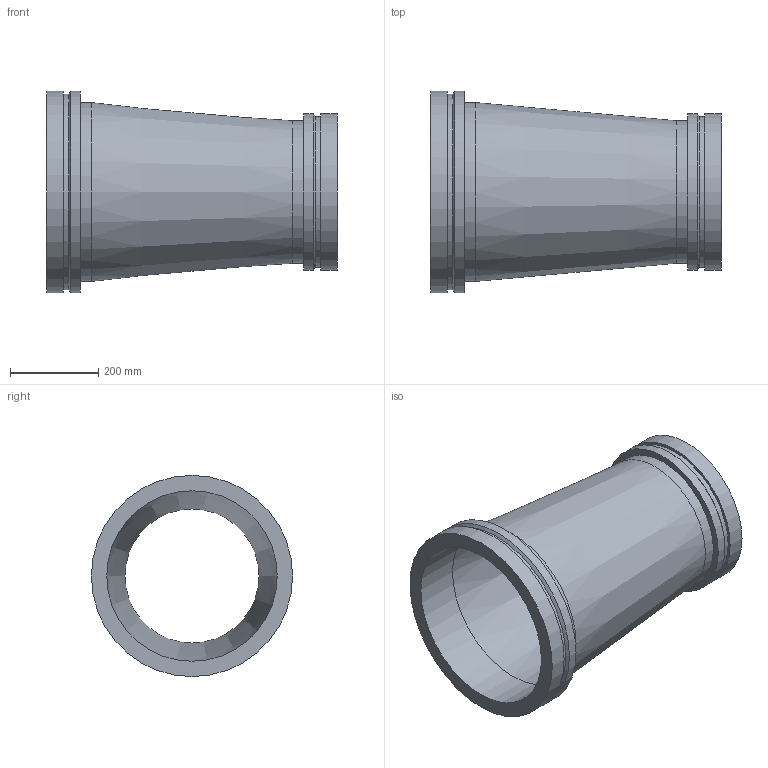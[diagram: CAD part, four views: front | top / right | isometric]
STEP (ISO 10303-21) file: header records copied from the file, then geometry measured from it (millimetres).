
FILE_DESCRIPTION(/* description */ ('VIC REDUCER CONCENTRIC No W50 VR','CAx-IF Rec.Pracs.---Representation and Presentation of Product Manufacturing Information (PMI)---4.0---2014-10-13'),/* implementation_level */ '2;1');
FILE_NAME(/* name */ 'C:\Users\kkamble\AppData\Roaming\Autodesk\ApplicationPlugins\Back Up\Victaulic_Vic-Ring_Reducer Concentric_No W50 VR (AGR)\Victaulic_Vic-Ring_Reducer Concentric_No W50 VR (AGR)_16.0x12.0 (400x300).stp',/* time_stamp */ '2020-09-10T11:45:10+05:00',/* author */ ('cps_temp'),/* organization */ ('Victaulic'),/* preprocessor_version */ 'ST-DEVELOPER v17.2',/* originating_system */ 'Autodesk Inventor 2019',/* authorisation */ '');
FILE_SCHEMA (('AP242_MANAGED_MODEL_BASED_3D_ENGINEERING_MIM_LF { 1 0 10303 442 1 1 4 }'));
Length unit declared in the file: inch
Products named in the file (1): W50 VR-16.0x12.0
Bounding box: 660.4 x 457.2 x 457.2 mm (x, y, z)
Volume: 10716623.8 mm3; surface area: 1645797.4 mm2
Topology: 1 solids, 1 shells, 20 faces, 54 edges, 40 vertices
Faces by surface type: cylinder 10, plane 6, cone 4
Full cylindrical faces by diameter (mm): 304.8 x1, 323.85 x1, 342.9 x1, 355.6 x2, 387.35 x1, 406.4 x1, 444.5 x1, 457.2 x2
Entity records: 830 total; most frequent: DIRECTION 162, CARTESIAN_POINT 132, ORIENTED_EDGE 108, AXIS2_PLACEMENT_3D 74, EDGE_CURVE 54, CIRCLE 40, VERTEX_POINT 40, EDGE_LOOP 26
